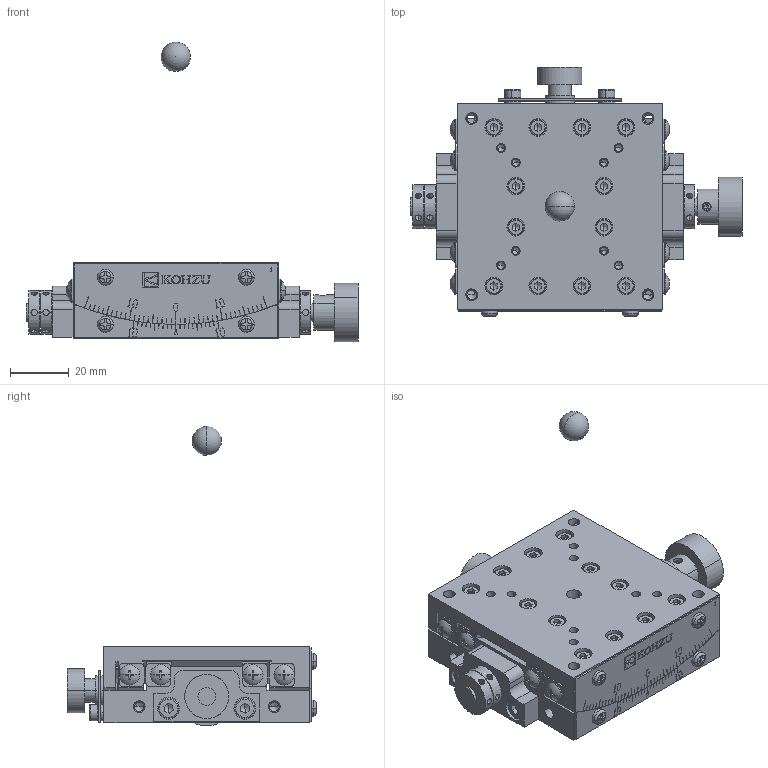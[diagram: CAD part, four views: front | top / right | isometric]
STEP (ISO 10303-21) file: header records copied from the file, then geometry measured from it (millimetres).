
FILE_DESCRIPTION (( 'STEP AP203' ), '1' );
FILE_NAME ('SH07A-RT.STEP', '2015-05-12T03:50:10', ( '' ), ( '' ), 'SwSTEP 2.0', 'SolidWorks 2011', '' );
FILE_SCHEMA (( 'CONFIG_CONTROL_DESIGN' ));
Products named in the file (4): SH07A-RT; rotation-center-24; table-21; base-31
Assembly tree (3 placements, depth 2):
  SH07A-RT
    base-31
    table-21
    rotation-center-24
Bounding box: 113 x 84.96 x 102 mm (x, y, z)
Volume: 124238.8 mm3; surface area: 52213.5 mm2
Topology: 3 solids, 49 shells, 2396 faces, 5760 edges, 3502 vertices
Faces by surface type: plane 1218, cylinder 747, cone 279, torus 120, sphere 26, bspline 6
Entity records: 73648 total; most frequent: CARTESIAN_POINT 17062, DIRECTION 12255, ORIENTED_EDGE 11250, EDGE_CURVE 5625, AXIS2_PLACEMENT_3D 4557, VERTEX_POINT 3499, LINE 3141, VECTOR 3141
